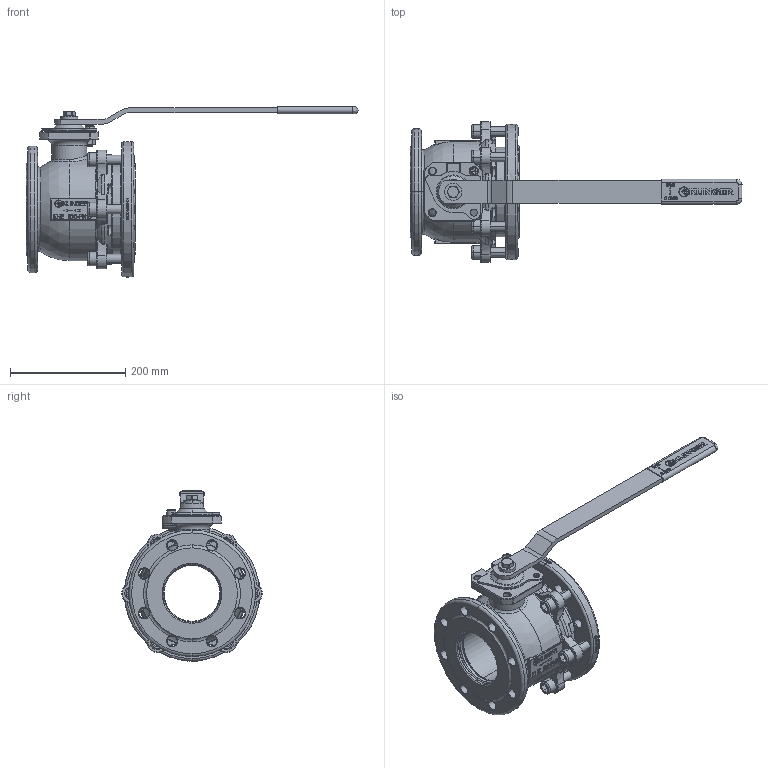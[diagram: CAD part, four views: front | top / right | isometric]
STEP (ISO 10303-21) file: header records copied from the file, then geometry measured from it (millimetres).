
FILE_DESCRIPTION((''),'2;1');
FILE_NAME('KHEFK100VFK100P016PKK','2015-08-07T',('mahrhauserh'),('RAND'),'PRO/ENGINEER BY PARAMETRIC TECHNOLOGY CORPORATION, 2013410','PRO/ENGINEER BY PARAMETRIC TECHNOLOGY CORPORATION, 2013410','');
FILE_SCHEMA(('CONFIG_CONTROL_DESIGN'));
Products named in the file (1): KHEFK100VFK100P016PKK
Bounding box: 577 x 244 x 296.2 mm (x, y, z)
Volume: 3857005.6 mm3; surface area: 654540.4 mm2
Topology: 1 solids, 2 shells, 2977 faces, 7989 edges, 5123 vertices
Faces by surface type: plane 1976, cylinder 402, torus 289, bspline 144, cone 134, sphere 32
Entity records: 117040 total; most frequent: CARTESIAN_POINT 43649, ORIENTED_EDGE 15950, DIRECTION 14406, EDGE_CURVE 7975, VERTEX_POINT 5123, VECTOR 5026, LINE 5026, AXIS2_PLACEMENT_3D 4690
